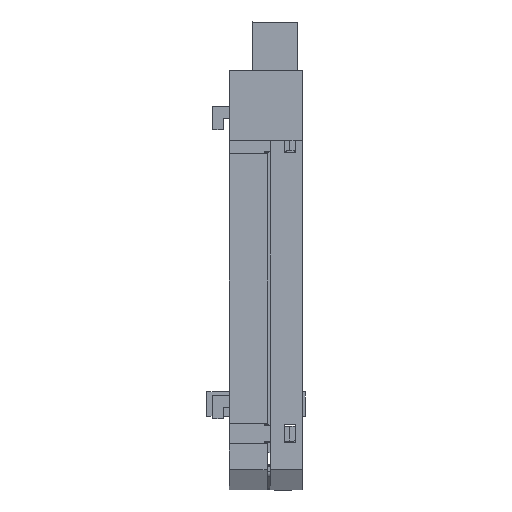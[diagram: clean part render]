
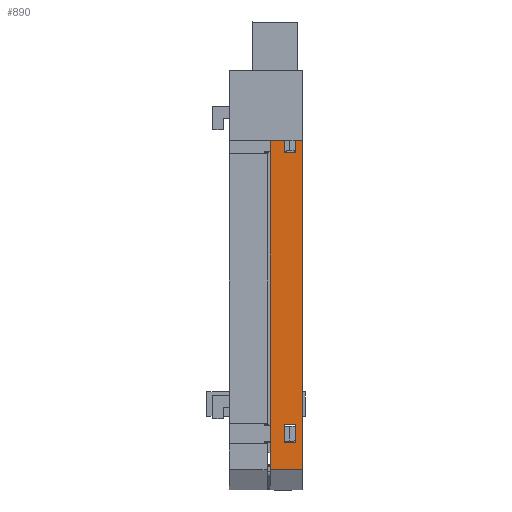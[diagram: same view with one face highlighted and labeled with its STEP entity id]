
A CAD part, front view. The second image highlights one B-rep face of the part: STEP entity #890.
In plain terms, the highlighted planar face has unit normal (0, -1, 0).
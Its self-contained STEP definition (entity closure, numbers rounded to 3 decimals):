
#380 = EDGE_CURVE ( 'NONE', #20037, #33115, #7239, .T. ) ;
#890 = ADVANCED_FACE ( 'NONE', ( #9830, #17857, #25792 ), #24946, .F. ) ;
#1140 = CARTESIAN_POINT ( 'NONE',  ( 0., 0., 0. ) ) ;
#1711 = ORIENTED_EDGE ( 'NONE', *, *, #36285, .F. ) ;
#1761 = EDGE_CURVE ( 'NONE', #31451, #3764, #10149, .T. ) ;
#2159 = DIRECTION ( 'NONE',  ( -1., 0., 0. ) ) ;
#2760 = CARTESIAN_POINT ( 'NONE',  ( 4.4, 0., -60.645 ) ) ;
#2783 = VERTEX_POINT ( 'NONE', #12727 ) ;
#3200 = VERTEX_POINT ( 'NONE', #19875 ) ;
#3569 = EDGE_CURVE ( 'NONE', #33115, #13358, #25889, .T. ) ;
#3764 = VERTEX_POINT ( 'NONE', #4276 ) ;
#4138 = LINE ( 'NONE', #29774, #20116 ) ;
#4276 = CARTESIAN_POINT ( 'NONE',  ( 4.4, 0., -7.845 ) ) ;
#4303 = CARTESIAN_POINT ( 'NONE',  ( 2.4, 0., -57.545 ) ) ;
#4785 = VERTEX_POINT ( 'NONE', #8938 ) ;
#4836 = VERTEX_POINT ( 'NONE', #19247 ) ;
#5539 = EDGE_LOOP ( 'NONE', ( #17545, #24374, #5830, #18160 ) ) ;
#5588 = DIRECTION ( 'NONE',  ( 0., 0., -1. ) ) ;
#5794 = DIRECTION ( 'NONE',  ( 1., 0., 0. ) ) ;
#5807 = ORIENTED_EDGE ( 'NONE', *, *, #17854, .F. ) ;
#5830 = ORIENTED_EDGE ( 'NONE', *, *, #380, .F. ) ;
#6746 = DIRECTION ( 'NONE',  ( -1., 0., 0. ) ) ;
#6821 = VECTOR ( 'NONE', #28230, 1000. ) ;
#6984 = VECTOR ( 'NONE', #20664, 1000. ) ;
#7239 = LINE ( 'NONE', #14651, #31171 ) ;
#7639 = EDGE_CURVE ( 'NONE', #4836, #3200, #22798, .T. ) ;
#7873 = VERTEX_POINT ( 'NONE', #21312 ) ;
#7906 = ORIENTED_EDGE ( 'NONE', *, *, #7639, .F. ) ;
#8337 = ORIENTED_EDGE ( 'NONE', *, *, #31136, .F. ) ;
#8706 = LINE ( 'NONE', #37956, #23747 ) ;
#8933 = ORIENTED_EDGE ( 'NONE', *, *, #25011, .F. ) ;
#8938 = CARTESIAN_POINT ( 'NONE',  ( 5.5, 0., 0. ) ) ;
#9334 = VERTEX_POINT ( 'NONE', #33597 ) ;
#9830 = FACE_OUTER_BOUND ( 'NONE', #31884, .T. ) ;
#10149 = LINE ( 'NONE', #13925, #26093 ) ;
#11769 = VECTOR ( 'NONE', #38155, 1000. ) ;
#11784 = ORIENTED_EDGE ( 'NONE', *, *, #16052, .T. ) ;
#12727 = CARTESIAN_POINT ( 'NONE',  ( 5.5, 0., -65.25 ) ) ;
#12795 = CARTESIAN_POINT ( 'NONE',  ( 5.5, 0., -57.545 ) ) ;
#13302 = DIRECTION ( 'NONE',  ( -1., 0., 0. ) ) ;
#13358 = VERTEX_POINT ( 'NONE', #4303 ) ;
#13689 = DIRECTION ( 'NONE',  ( 0., 0., 1. ) ) ;
#13925 = CARTESIAN_POINT ( 'NONE',  ( 4.4, 0., 0. ) ) ;
#14445 = CARTESIAN_POINT ( 'NONE',  ( 5.5, 0., 0. ) ) ;
#14489 = DIRECTION ( 'NONE',  ( 0., 0., 1. ) ) ;
#14651 = CARTESIAN_POINT ( 'NONE',  ( 4.4, 0., 0. ) ) ;
#14973 = LINE ( 'NONE', #14445, #6984 ) ;
#15716 = VECTOR ( 'NONE', #30682, 1000. ) ;
#16052 = EDGE_CURVE ( 'NONE', #2783, #4785, #14973, .T. ) ;
#16823 = ORIENTED_EDGE ( 'NONE', *, *, #19459, .F. ) ;
#17545 = ORIENTED_EDGE ( 'NONE', *, *, #33911, .F. ) ;
#17854 = EDGE_CURVE ( 'NONE', #3764, #7873, #30569, .T. ) ;
#17857 = FACE_BOUND ( 'NONE', #5539, .T. ) ;
#18160 = ORIENTED_EDGE ( 'NONE', *, *, #31376, .F. ) ;
#18684 = CARTESIAN_POINT ( 'NONE',  ( 2.4, 0., 0. ) ) ;
#19247 = CARTESIAN_POINT ( 'NONE',  ( 0., 0., -65.25 ) ) ;
#19459 = EDGE_CURVE ( 'NONE', #3200, #4785, #4138, .T. ) ;
#19550 = VECTOR ( 'NONE', #33692, 1000. ) ;
#19875 = CARTESIAN_POINT ( 'NONE',  ( 0., 0., 0. ) ) ;
#20037 = VERTEX_POINT ( 'NONE', #2760 ) ;
#20116 = VECTOR ( 'NONE', #5794, 1000. ) ;
#20664 = DIRECTION ( 'NONE',  ( 0., 0., 1. ) ) ;
#21312 = CARTESIAN_POINT ( 'NONE',  ( 2.4, 0., -7.845 ) ) ;
#21543 = CARTESIAN_POINT ( 'NONE',  ( 5.5, 0., -60.645 ) ) ;
#21635 = LINE ( 'NONE', #29572, #28660 ) ;
#22621 = VECTOR ( 'NONE', #6746, 1000. ) ;
#22798 = LINE ( 'NONE', #1140, #6821 ) ;
#23747 = VECTOR ( 'NONE', #2159, 1000. ) ;
#24374 = ORIENTED_EDGE ( 'NONE', *, *, #3569, .F. ) ;
#24425 = DIRECTION ( 'NONE',  ( 0., 0., 1. ) ) ;
#24469 = DIRECTION ( 'NONE',  ( 0., 1., 0. ) ) ;
#24504 = CARTESIAN_POINT ( 'NONE',  ( 5.5, 0., 0. ) ) ;
#24946 = PLANE ( 'NONE',  #26187 ) ;
#25011 = EDGE_CURVE ( 'NONE', #30386, #31451, #35607, .T. ) ;
#25792 = FACE_BOUND ( 'NONE', #27076, .T. ) ;
#25889 = LINE ( 'NONE', #12795, #32919 ) ;
#26093 = VECTOR ( 'NONE', #13689, 1000. ) ;
#26187 = AXIS2_PLACEMENT_3D ( 'NONE', #24504, #24469, #24425 ) ;
#27076 = EDGE_LOOP ( 'NONE', ( #5807, #32322, #8933, #1711 ) ) ;
#27842 = CARTESIAN_POINT ( 'NONE',  ( 4.4, 0., -10.945 ) ) ;
#28230 = DIRECTION ( 'NONE',  ( 0., 0., 1. ) ) ;
#28426 = LINE ( 'NONE', #18684, #19550 ) ;
#28660 = VECTOR ( 'NONE', #5588, 1000. ) ;
#29572 = CARTESIAN_POINT ( 'NONE',  ( 2.4, 0., 0. ) ) ;
#29774 = CARTESIAN_POINT ( 'NONE',  ( 5.5, 0., 0. ) ) ;
#30386 = VERTEX_POINT ( 'NONE', #36723 ) ;
#30569 = LINE ( 'NONE', #35932, #22621 ) ;
#30682 = DIRECTION ( 'NONE',  ( 1., 0., 0. ) ) ;
#31136 = EDGE_CURVE ( 'NONE', #2783, #4836, #8706, .T. ) ;
#31171 = VECTOR ( 'NONE', #14489, 1000. ) ;
#31376 = EDGE_CURVE ( 'NONE', #9334, #20037, #31658, .T. ) ;
#31451 = VERTEX_POINT ( 'NONE', #27842 ) ;
#31658 = LINE ( 'NONE', #21543, #15716 ) ;
#31884 = EDGE_LOOP ( 'NONE', ( #8337, #11784, #16823, #7906 ) ) ;
#32322 = ORIENTED_EDGE ( 'NONE', *, *, #1761, .F. ) ;
#32919 = VECTOR ( 'NONE', #13302, 1000. ) ;
#33115 = VERTEX_POINT ( 'NONE', #37569 ) ;
#33597 = CARTESIAN_POINT ( 'NONE',  ( 2.4, 0., -60.645 ) ) ;
#33692 = DIRECTION ( 'NONE',  ( 0., 0., -1. ) ) ;
#33911 = EDGE_CURVE ( 'NONE', #13358, #9334, #21635, .T. ) ;
#35179 = CARTESIAN_POINT ( 'NONE',  ( 5.5, 0., -10.945 ) ) ;
#35607 = LINE ( 'NONE', #35179, #11769 ) ;
#35932 = CARTESIAN_POINT ( 'NONE',  ( 5.5, 0., -7.845 ) ) ;
#36285 = EDGE_CURVE ( 'NONE', #7873, #30386, #28426, .T. ) ;
#36723 = CARTESIAN_POINT ( 'NONE',  ( 2.4, 0., -10.945 ) ) ;
#37569 = CARTESIAN_POINT ( 'NONE',  ( 4.4, 0., -57.545 ) ) ;
#37956 = CARTESIAN_POINT ( 'NONE',  ( 5.5, 0., -65.25 ) ) ;
#38155 = DIRECTION ( 'NONE',  ( 1., 0., 0. ) ) ;
